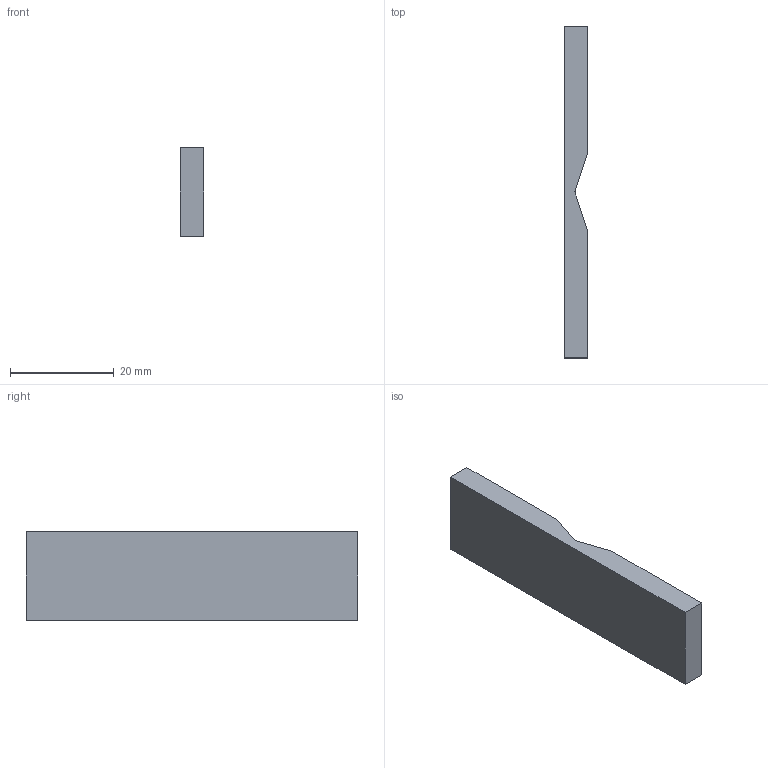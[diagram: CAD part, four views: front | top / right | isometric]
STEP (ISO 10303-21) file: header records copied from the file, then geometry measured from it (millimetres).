
FILE_DESCRIPTION(('Open CASCADE Model'),'2;1');
FILE_NAME('Open CASCADE Shape Model','2026-10-16T04:49:54',('Author'),( 'Open CASCADE'),'Open CASCADE STEP processor 7.9','Open CASCADE 7.9' ,'Unknown');
FILE_SCHEMA(('AUTOMOTIVE_DESIGN { 1 0 10303 214 1 1 1 1 }'));
Length unit declared in the file: millimetre
Products named in the file (1): Open CASCADE STEP translator 7.9 5
Bounding box: 4.5 x 64 x 17 mm (x, y, z)
Volume: 4577.2 mm3; surface area: 2881.3 mm2
Topology: 1 solids, 1 shells, 9 faces, 21 edges, 14 vertices
Faces by surface type: plane 9
Entity records: 538 total; most frequent: CARTESIAN_POINT 87, DIRECTION 83, LINE 63, VECTOR 63, ORIENTED_EDGE 42, PCURVE 42, DEFINITIONAL_REPRESENTATION 42, EDGE_CURVE 21
